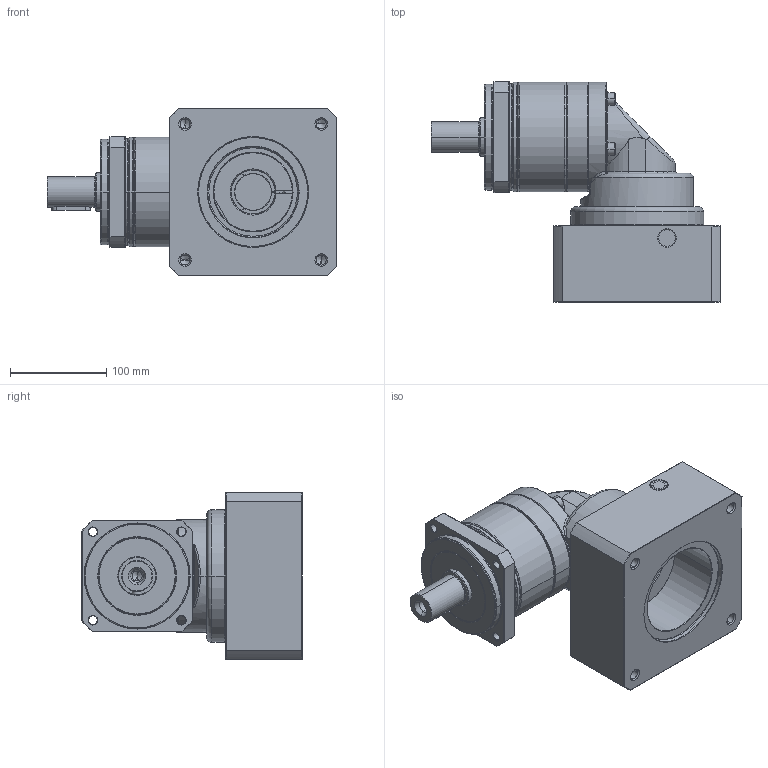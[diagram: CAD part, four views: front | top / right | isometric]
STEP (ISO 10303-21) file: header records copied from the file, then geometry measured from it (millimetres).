
FILE_DESCRIPTION((''),'2;1');
FILE_NAME('PA2R-115_1ST_38-P0411900101_ASM','2016-05-12T',('d01943'),(''),'PRO/ENGINEER BY PARAMETRIC TECHNOLOGY CORPORATION, 2008410','PRO/ENGINEER BY PARAMETRIC TECHNOLOGY CORPORATION, 2008410','');
FILE_SCHEMA(('CONFIG_CONTROL_DESIGN'));
Length unit declared in the file: millimetre
Products named in the file (12): P1327410001; P0250400001; P0350400601; P1349400001; P1017400001; P0713405001; P0503900010; P1350400501; P0411900101; P1702600001; 2111B108035; PA2R-115_1ST_38-P0411900101_ASM
Assembly tree (14 placements, depth 2):
  PA2R-115_1ST_38-P0411900101_ASM
    P1327410001
    P0250400001
    P0350400601
    P1349400001
    P1017400001
    P0713405001
    P0503900010
    P1350400501
    P0411900101
    P1702600001
    2111B108035  x4
Bounding box: 301 x 229 x 174 mm (x, y, z)
Volume: 3409078.8 mm3; surface area: 451146.1 mm2
Topology: 14 solids, 14 shells, 722 faces, 1594 edges, 922 vertices
Faces by surface type: cylinder 212, cone 210, plane 168, torus 100, bspline 32
Entity records: 23130 total; most frequent: CARTESIAN_POINT 9168, DIRECTION 3076, ORIENTED_EDGE 2712, EDGE_CURVE 1356, AXIS2_PLACEMENT_3D 1294, VERTEX_POINT 802, EDGE_LOOP 704, CIRCLE 677
